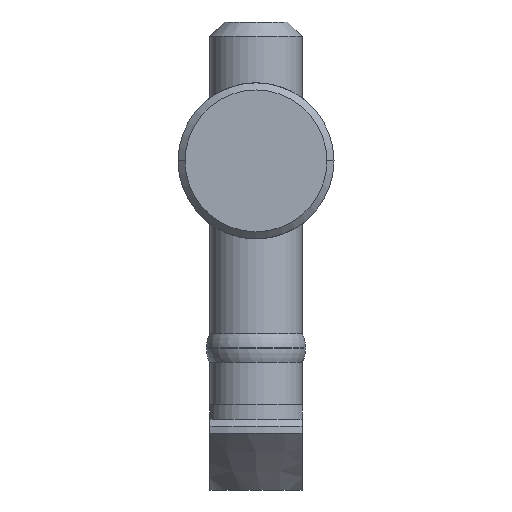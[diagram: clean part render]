
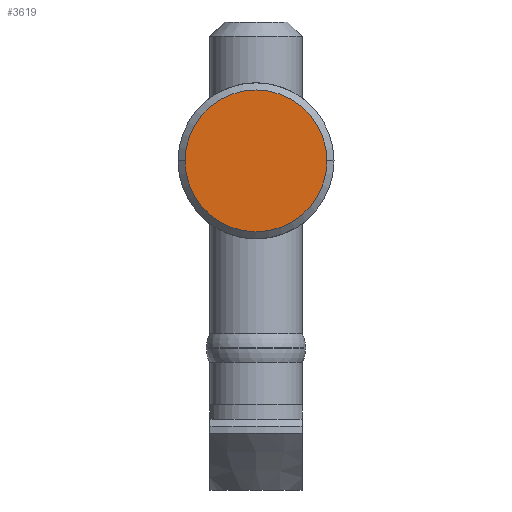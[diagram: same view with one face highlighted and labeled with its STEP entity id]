
A CAD part, front view. The second image highlights one B-rep face of the part: STEP entity #3619.
In plain terms, the highlighted planar face has unit normal (0, -1, 0).
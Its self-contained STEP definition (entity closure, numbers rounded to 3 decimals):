
#28 = CARTESIAN_POINT ( 'NONE',  ( 0., 0., -5. ) ) ;
#316 = VERTEX_POINT ( 'NONE', #3341 ) ;
#521 = DIRECTION ( 'NONE',  ( 0., -1., 0. ) ) ;
#548 = CARTESIAN_POINT ( 'NONE',  ( 0., 0., 0. ) ) ;
#675 = AXIS2_PLACEMENT_3D ( 'NONE', #4075, #521, #4677 ) ;
#1149 = DIRECTION ( 'NONE',  ( 0., 0., 1. ) ) ;
#1166 = DIRECTION ( 'NONE',  ( 0., 1., 0. ) ) ;
#3341 = CARTESIAN_POINT ( 'NONE',  ( 0., 0., 5. ) ) ;
#3619 = ADVANCED_FACE ( 'NONE', ( #5057 ), #4114, .F. ) ;
#3704 = VERTEX_POINT ( 'NONE', #28 ) ;
#3752 = CIRCLE ( 'NONE', #7568, 5. ) ;
#4075 = CARTESIAN_POINT ( 'NONE',  ( 0., 0., 0. ) ) ;
#4114 = PLANE ( 'NONE',  #4390 ) ;
#4213 = EDGE_CURVE ( 'NONE', #316, #3704, #6906, .T. ) ;
#4256 = EDGE_CURVE ( 'NONE', #3704, #316, #3752, .T. ) ;
#4390 = AXIS2_PLACEMENT_3D ( 'NONE', #4718, #1166, #5312 ) ;
#4677 = DIRECTION ( 'NONE',  ( 0., 0., 1. ) ) ;
#4702 = DIRECTION ( 'NONE',  ( 0., -1., 0. ) ) ;
#4718 = CARTESIAN_POINT ( 'NONE',  ( 0., 0., 0. ) ) ;
#5057 = FACE_OUTER_BOUND ( 'NONE', #6664, .T. ) ;
#5312 = DIRECTION ( 'NONE',  ( 0., 0., 1. ) ) ;
#6038 = ORIENTED_EDGE ( 'NONE', *, *, #4213, .T. ) ;
#6183 = ORIENTED_EDGE ( 'NONE', *, *, #4256, .T. ) ;
#6664 = EDGE_LOOP ( 'NONE', ( #6038, #6183 ) ) ;
#6906 = CIRCLE ( 'NONE', #675, 5. ) ;
#7568 = AXIS2_PLACEMENT_3D ( 'NONE', #548, #4702, #1149 ) ;
